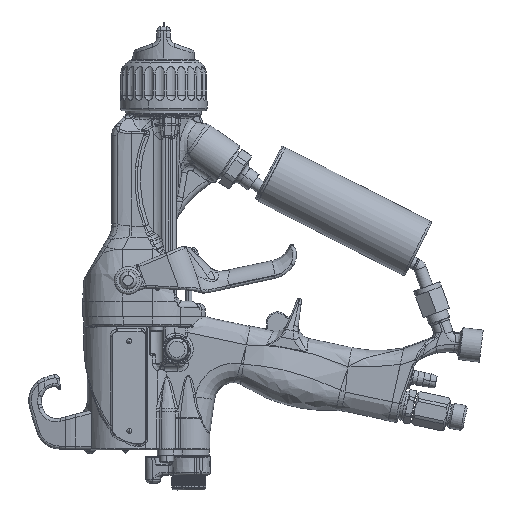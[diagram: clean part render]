
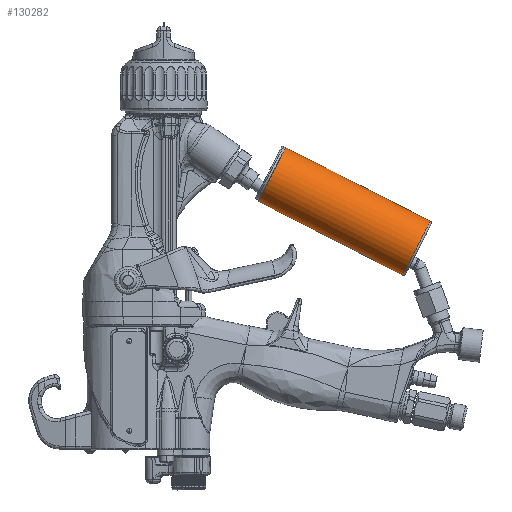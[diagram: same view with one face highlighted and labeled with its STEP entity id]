
A CAD part, left-side view. The second image highlights one B-rep face of the part: STEP entity #130282.
In plain terms, the highlighted cylindrical face has radius 15.494 mm (diameter 30.988 mm), a partial arc.
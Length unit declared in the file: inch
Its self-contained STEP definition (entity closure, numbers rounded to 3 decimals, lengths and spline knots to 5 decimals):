
#130185=CARTESIAN_POINT('',(0.,-5.11135,-3.41578));
#130186=DIRECTION('',(0.,-0.891,-0.454));
#130187=DIRECTION('',(0.,-0.454,0.891));
#130188=AXIS2_PLACEMENT_3D('',#130185,#130186,#130187);
#130190=DIRECTION('',(0.,-0.891,
-0.454));
#130191=VECTOR('',#130190,3.28);
#130192=CARTESIAN_POINT('',(0.,-1.91191,-2.4702));
#130193=LINE('',#130192,#130191);
#130194=CARTESIAN_POINT('',(0.,-2.18884,-1.92669));
#130195=DIRECTION('',(0.,-0.891,-0.454));
#130196=DIRECTION('',(0.,-0.454,0.891));
#130197=AXIS2_PLACEMENT_3D('',#130194,#130195,#130196);
#130199=DIRECTION('',(0.,-0.891,
-0.454));
#130200=VECTOR('',#130199,3.28);
#130201=CARTESIAN_POINT('',(0.,-2.46578,-1.38317));
#130202=LINE('',#130201,#130200);
#130203=CARTESIAN_POINT('',(0.,-2.46578,-1.38317));
#130204=CARTESIAN_POINT('',(0.,-1.91191,-2.4702));
#130205=VERTEX_POINT('',#130203);
#130206=VERTEX_POINT('',#130204);
#130211=CARTESIAN_POINT('',(0.,-4.83441,-3.95929));
#130212=CARTESIAN_POINT('',(0.,-5.38828,-2.87226));
#130213=VERTEX_POINT('',#130211);
#130214=VERTEX_POINT('',#130212);
#130270=CARTESIAN_POINT('',(0.,-5.29489,-3.5093));
#130271=DIRECTION('',(0.,0.891,0.454));
#130272=DIRECTION('',(0.,0.454,-0.891));
#130273=AXIS2_PLACEMENT_3D('',#130270,#130271,#130272);
#130274=CYLINDRICAL_SURFACE('',#130273,0.61);
#130275=ORIENTED_EDGE('',*,*,#130264,.T.);
#130276=ORIENTED_EDGE('',*,*,#130226,.F.);
#130278=ORIENTED_EDGE('',*,*,#130277,.F.);
#130279=ORIENTED_EDGE('',*,*,#130222,.T.);
#130280=EDGE_LOOP('',(#130275,#130276,#130278,#130279));
#130281=FACE_OUTER_BOUND('',#130280,.F.);
#130282=ADVANCED_FACE('',(#130281),#130274,.T.);
#130189=CIRCLE('',#130188,0.61);
#130198=CIRCLE('',#130197,0.61);
#130222=EDGE_CURVE('',#130205,#130214,#130202,.T.);
#130226=EDGE_CURVE('',#130206,#130213,#130193,.T.);
#130264=EDGE_CURVE('',#130214,#130213,#130189,.T.);
#130277=EDGE_CURVE('',#130205,#130206,#130198,.T.);
